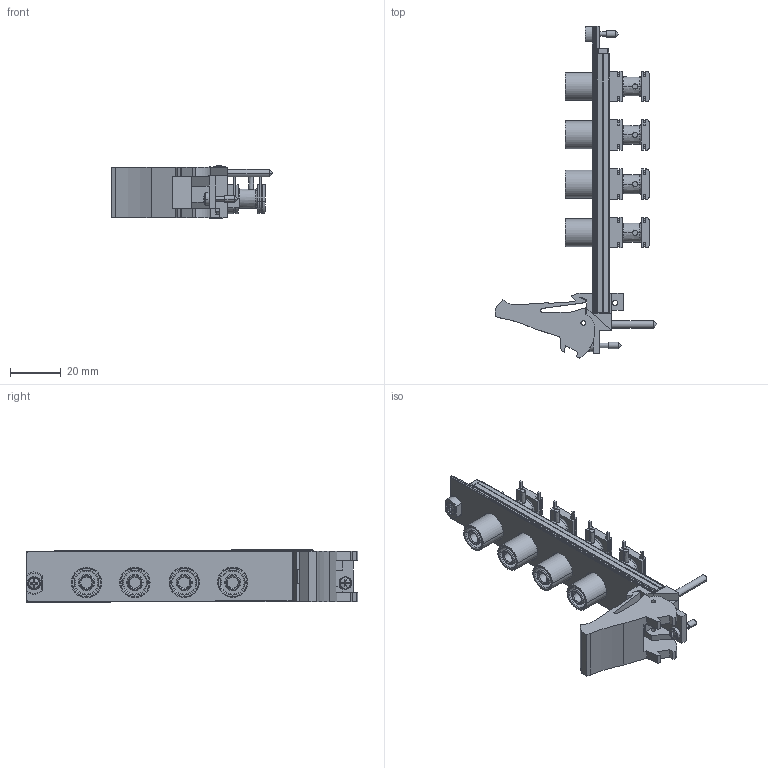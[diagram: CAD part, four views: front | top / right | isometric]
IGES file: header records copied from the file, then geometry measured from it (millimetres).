
Start section:  PTC IGES file: cu_pxie-408x.igs
Global section: file name: cu_pxie-408x.igs; native system: Creo Parametric by PTC Inc.; preprocessor: 2015380; author: jjorden; organization: Unknown; date: 20160524.112225; units: inch
Bounding box: 63.53 x 130.53 x 20.65 mm (x, y, z)
Surface area: 25162.2 mm2 (no closed solid volume)
Topology: 0 solids, 0 shells, 745 faces, 3872 edges, 3864 vertices
Faces by surface type: bspline 450, revolution 295
